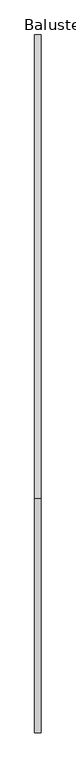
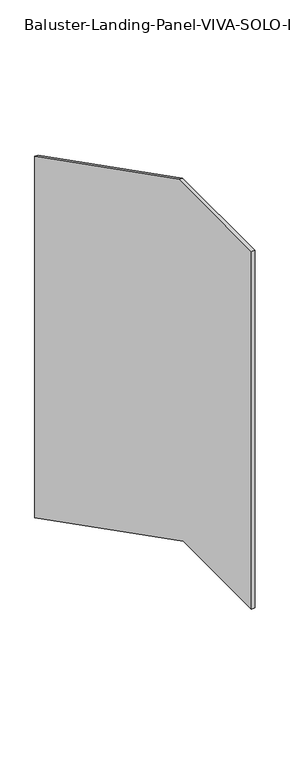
"""IFC4 building model written with IfcOpenShell, lengths in millimetres: railing geometry, Baluster-Landing-Panel-VIVA-SOLO-Lower : Standard_Glass."""

from ifc_helpers import new_model, si_unit, frame, origin, place, context, project, spatial, polyline, outline, extrude, source, transform, mapped, element, save


def baluster_landing_panel_viva_solo_lower_standard_glass_5ef70e5d(model_context):
    return source(origin(), model_context, "Body", "SweptSolid", [
        extrude(outline(polyline([(-680.085, 1112.52), (5.0108793, 763.7473897), (5.0108793, -283.148271), (-700.8588262, 76.2), (-1025.525, 76.2), (-1025.525, 1112.52), (-680.085, 1112.52)])), frame((33.3375, 0.0, 0.0), z_axis=(1.0, 0.0, 0.0), x_axis=(0.0, 1.0, 0.0)), (0.0, 0.0, 1.0), 9.525),
    ])


if __name__ == "__main__":
    model = new_model("IFC4")
    model_context = context("Model", 3, world=origin())
    ifc_project = project(units=[si_unit("LENGTHUNIT", "METRE", prefix="MILLI")], contexts=[model_context])
    site = spatial("IfcSite", under=ifc_project)
    building = spatial("IfcBuilding", under=site)
    placement = place(None, origin())
    baluster_landing_panel_viva_solo_lower_standard_glass_shape = baluster_landing_panel_viva_solo_lower_standard_glass_5ef70e5d(model_context)
    element("IfcRailing", 1, ObjectType="Baluster-Landing-Panel-VIVA-SOLO-Lower : Standard_Glass", at=placement, inside=building, context=model_context, shape_type="MappedRepresentation", body=[
        mapped(baluster_landing_panel_viva_solo_lower_standard_glass_shape, transform((0.0, 0.0, 0.0), x_axis=(1.0, 0.0, 0.0), y_axis=(0.0, 1.0, 0.0), z_axis=(0.0, 0.0, 1.0))),
    ])
    save(model, "model.ifc")
